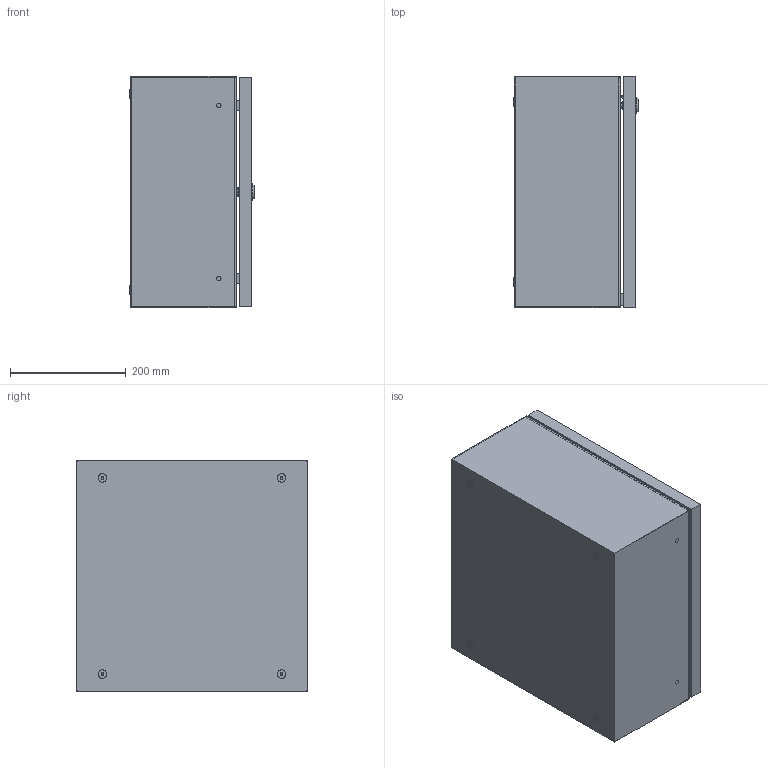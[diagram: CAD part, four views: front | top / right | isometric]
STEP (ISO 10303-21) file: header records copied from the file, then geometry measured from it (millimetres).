
FILE_DESCRIPTION(/* description */ ('Unknown'),/* implementation_level */ '2;1');
FILE_NAME(/* name */ 'CCA04004021',/* time_stamp */ '2024-07-23T16:08:59+02:00',/* author */ ('Unknown'),/* organization */ ('Unknown'),/* preprocessor_version */ 'ST-DEVELOPER v19.4',/* originating_system */ 'Solid Edge',/* authorisation */ 'Unknown');
FILE_SCHEMA (('AUTOMOTIVE_DESIGN {1 0 10303 214 3 1 1}'));
Length unit declared in the file: millimetre
Products named in the file (17): CCA04004021; C000X000.16; C000X000.17; C0000000.31; C0000000.02; AE00989.09; AE00198.02; AE00417.01; C0000000.40; C000X000.15; C0000000.13; C0000000.04; C0000000.05; AE00316.01; AE00601.01; AE00891.02; C0000000.01
Assembly tree (35 placements, depth 4):
  CCA04004021
    C000X000.16
      C000X000.17
        C0000000.31
      C0000000.02  x2
      AE00989.09
      AE00198.02  x2
      AE00417.01  x2
    AE00198.02  x2
    C0000000.40
    C000X000.15
      C0000000.13
      C0000000.04  x4
      C0000000.05  x4
      AE00316.01  x2
      AE00601.01  x2
      AE00891.02  x2
      C0000000.01  x2
      AE00417.01  x4
Bounding box: 215 x 400 x 400 mm (x, y, z)
Volume: 1227787.3 mm3; surface area: 1383350 mm2
Topology: 32 solids, 32 shells, 515 faces, 1214 edges, 789 vertices
Faces by surface type: plane 340, cylinder 117, cone 34, torus 24
Full cylindrical faces by diameter (mm): 4 x1, 4.917 x5, 4.918 x2, 5.4 x2, 6 x14, 6.4 x2, 7.5 x6, 8 x4, 8.376 x8, 10 x5, 10.25 x4, 10.5 x4, 11 x2, 13.6 x1, 14 x2, 15 x4, 16 x2, 16.3 x1, 19.5 x1, 28 x1
Entity records: 11412 total; most frequent: CARTESIAN_POINT 1750, DIRECTION 1681, ORIENTED_EDGE 1542, EDGE_CURVE 771, AXIS2_PLACEMENT_3D 564, LINE 553, VECTOR 553, VERTEX_POINT 524
